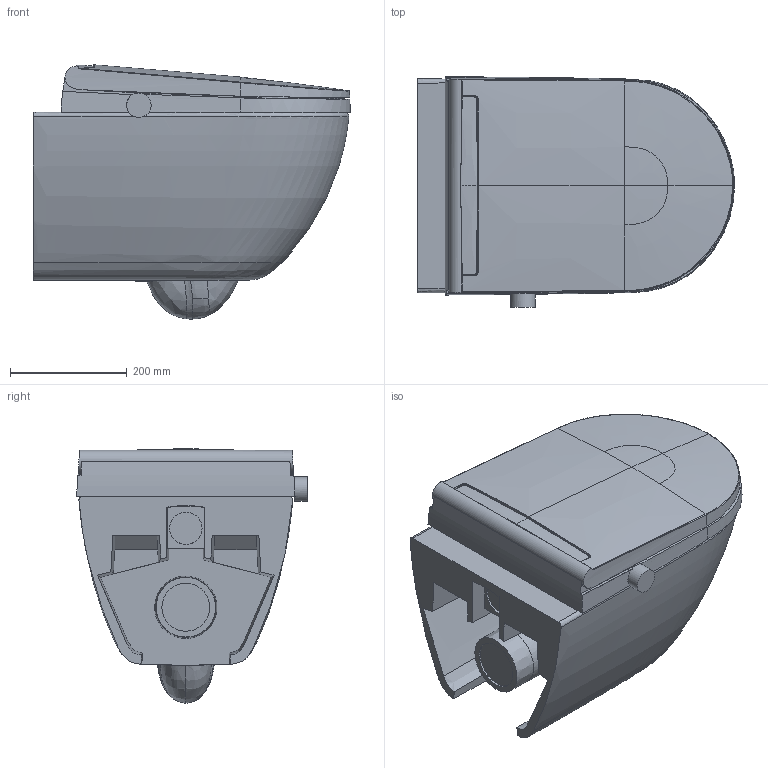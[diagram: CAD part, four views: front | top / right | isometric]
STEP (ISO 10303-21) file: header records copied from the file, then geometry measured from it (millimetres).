
FILE_DESCRIPTION(/* description */ (''),/* implementation_level */ '2;1');
FILE_NAME(/* name */ 'HY20860BIM_Mit Sitz und Deckel.stp',/* time_stamp */ '2025-06-05T12:37:33+02:00',/* author */ (''),/* organization */ (''),/* preprocessor_version */ 'ST-DEVELOPER v16.7',/* originating_system */ 'SIEMENS PLM Software NX 1946',/* authorisation */ '');
FILE_SCHEMA (('AUTOMOTIVE_DESIGN { 1 0 10303 214 3 1 1 1 }'));
Length unit declared in the file: millimetre
Products named in the file (1): elaa0700BDB8dgeh
Bounding box: 542.68 x 394.93 x 435.16 mm (x, y, z)
Volume: 43599017.7 mm3; surface area: 1041173 mm2
Topology: 1 solids, 6 shells, 220 faces, 629 edges, 424 vertices
Faces by surface type: plane 92, bspline 74, cylinder 30, extrusion 16, cone 6, revolution 2
Full cylindrical faces by diameter (mm): 42 x1, 82 x1
Entity records: 28988 total; most frequent: CARTESIAN_POINT 24171, ORIENTED_EDGE 1236, EDGE_CURVE 618, DIRECTION 592, VERTEX_POINT 422, B_SPLINE_CURVE_WITH_KNOTS 387, EDGE_LOOP 232, ADVANCED_FACE 220
